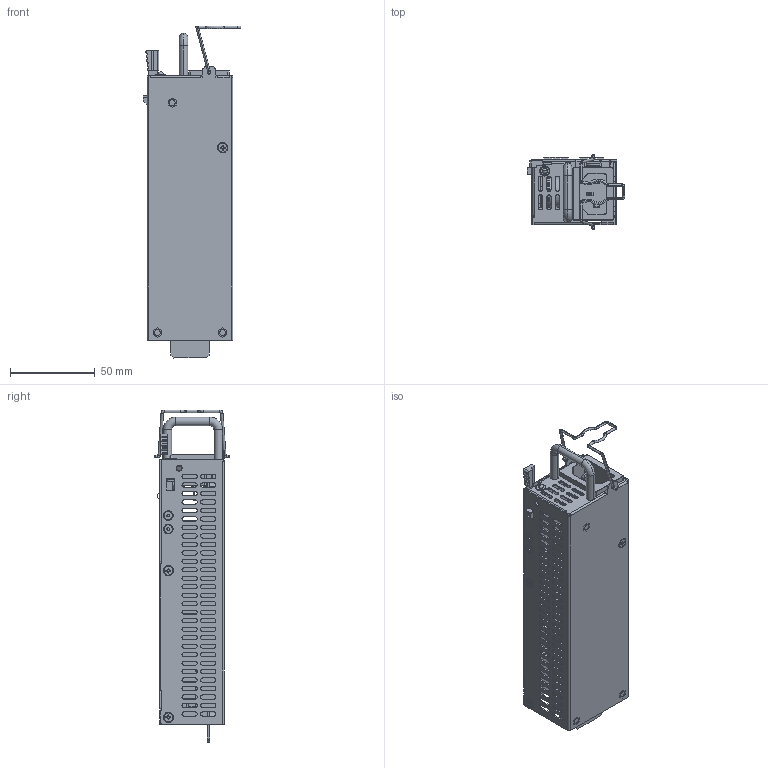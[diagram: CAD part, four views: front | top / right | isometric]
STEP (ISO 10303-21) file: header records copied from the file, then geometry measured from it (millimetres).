
FILE_DESCRIPTION((''),'2;1');
FILE_NAME('0TOP_GPM-U70S12FII_ASM','2022-08-18T17:38:36',('pd070'),(''),'CREO PARAMETRIC BY PTC INC, 2017260','CREO PARAMETRIC BY PTC INC, 2017260','');
FILE_SCHEMA(('CONFIG_CONTROL_DESIGN','SHAPE_APPEARANCE_LAYERS_GROUPS'));
Products named in the file (1): 0TOP_GPM-U70S12FII_ASM
Bounding box: 57.65 x 43.99 x 195.75 mm (x, y, z)
Surface area: 109350.3 mm2 (no closed solid volume)
Topology: 0 solids, 63 shells, 1853 faces, 6037 edges, 4174 vertices
Faces by surface type: plane 1049, cylinder 679, torus 66, cone 36, bspline 13, sphere 10
Entity records: 79526 total; most frequent: CARTESIAN_POINT 12828, DIRECTION 11788, ORIENTED_EDGE 10473, EDGE_CURVE 6033, VERTEX_POINT 4174, AXIS2_PLACEMENT_3D 3944, VECTOR 3900, LINE 3900
